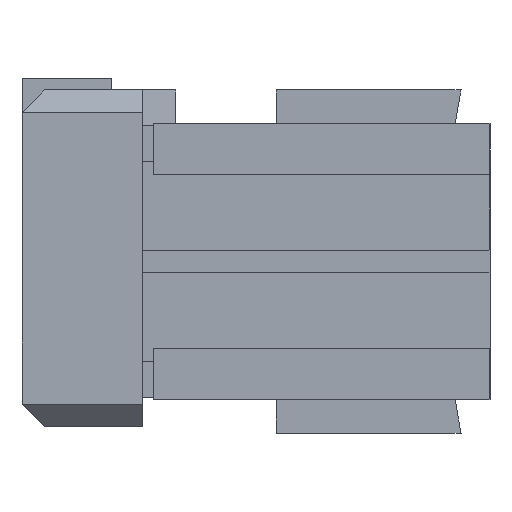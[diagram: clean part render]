
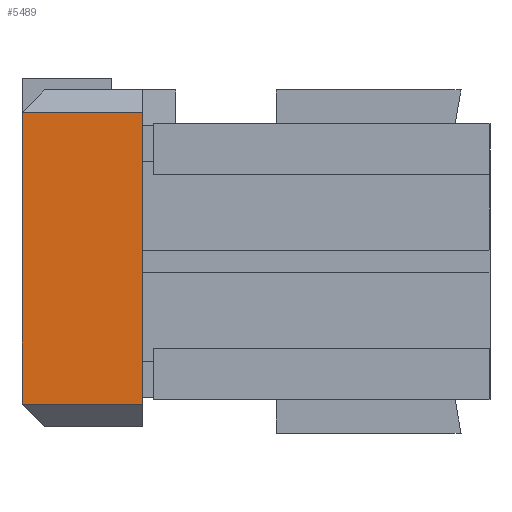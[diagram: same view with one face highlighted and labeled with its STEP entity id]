
A CAD part, front view. The second image highlights one B-rep face of the part: STEP entity #5489.
In plain terms, the highlighted planar face has unit normal (0, -1, 0).
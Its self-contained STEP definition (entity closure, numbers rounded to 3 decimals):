
#1550=CARTESIAN_POINT('Vertex',(-15.6,-24.75,6.7)) ;
#1553=CARTESIAN_POINT('Line Origine',(-15.6,-24.75,0.15)) ;
#1557=CARTESIAN_POINT('Vertex',(-15.6,-24.75,-6.4)) ;
#5451=CARTESIAN_POINT('Vertex',(-21.,-24.75,6.7)) ;
#5454=CARTESIAN_POINT('Line Origine',(-18.3,-24.75,6.7)) ;
#5466=CARTESIAN_POINT('Axis2P3D Location',(-21.,-24.75,7.7)) ;
#5471=CARTESIAN_POINT('Line Origine',(-21.,-24.75,0.15)) ;
#5475=CARTESIAN_POINT('Vertex',(-21.,-24.75,-6.4)) ;
#5478=CARTESIAN_POINT('Line Origine',(-18.3,-24.75,-6.4)) ;
#1554=DIRECTION('Vector Direction',(0.,0.,-1.)) ;
#5455=DIRECTION('Vector Direction',(1.,0.,0.)) ;
#5467=DIRECTION('Axis2P3D Direction',(0.,-1.,0.)) ;
#5468=DIRECTION('Axis2P3D XDirection',(0.,0.,-1.)) ;
#5472=DIRECTION('Vector Direction',(0.,0.,-1.)) ;
#5479=DIRECTION('Vector Direction',(-1.,0.,0.)) ;
#5469=AXIS2_PLACEMENT_3D('Plane Axis2P3D',#5466,#5467,#5468) ;
#5484=ORIENTED_EDGE('',*,*,#5477,.T.) ;
#5485=ORIENTED_EDGE('',*,*,#5482,.F.) ;
#5486=ORIENTED_EDGE('',*,*,#1559,.F.) ;
#5487=ORIENTED_EDGE('',*,*,#5458,.F.) ;
#1555=VECTOR('Line Direction',#1554,1.) ;
#5456=VECTOR('Line Direction',#5455,1.) ;
#5473=VECTOR('Line Direction',#5472,1.) ;
#5480=VECTOR('Line Direction',#5479,1.) ;
#5489=ADVANCED_FACE('Body',(#5488),#5470,.T.) ;
#1559=EDGE_CURVE('',#1551,#1558,#1556,.T.) ;
#5458=EDGE_CURVE('',#5452,#1551,#5457,.T.) ;
#5477=EDGE_CURVE('',#5452,#5476,#5474,.T.) ;
#5482=EDGE_CURVE('',#1558,#5476,#5481,.T.) ;
#5483=EDGE_LOOP('',(#5484,#5485,#5486,#5487)) ;
#5488=FACE_OUTER_BOUND('',#5483,.T.) ;
#1556=LINE('Line',#1553,#1555) ;
#5457=LINE('Line',#5454,#5456) ;
#5474=LINE('Line',#5471,#5473) ;
#5481=LINE('Line',#5478,#5480) ;
#5470=PLANE('',#5469) ;
#1551=VERTEX_POINT('',#1550) ;
#1558=VERTEX_POINT('',#1557) ;
#5452=VERTEX_POINT('',#5451) ;
#5476=VERTEX_POINT('',#5475) ;
